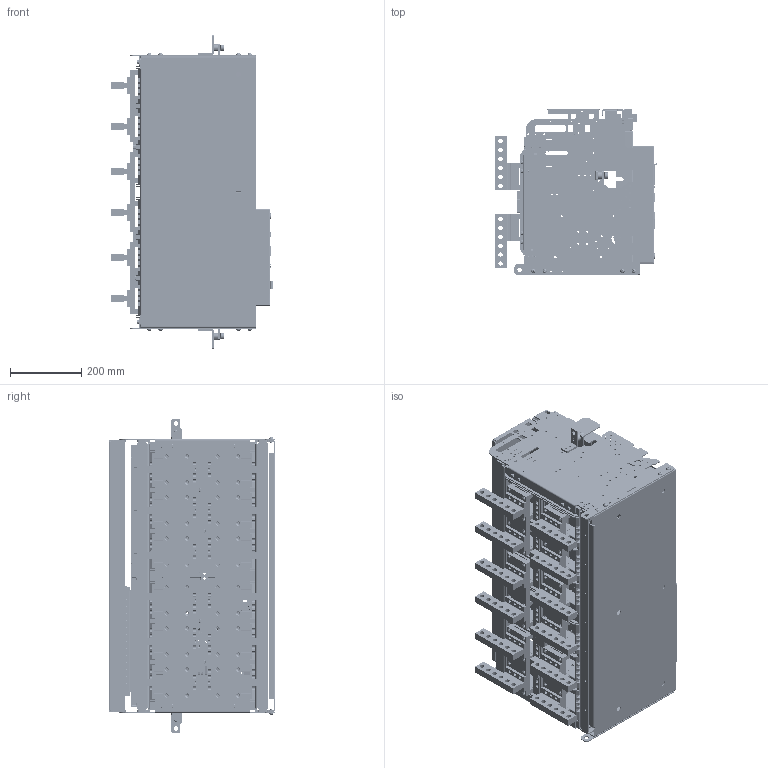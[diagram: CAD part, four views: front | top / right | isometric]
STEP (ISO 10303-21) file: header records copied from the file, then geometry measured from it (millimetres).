
FILE_DESCRIPTION((''),'2;1');
FILE_NAME('D633V_ASM','2017-02-01T',('HHI'),(''),'PRO/ENGINEER BY PARAMETRIC TECHNOLOGY CORPORATION, 2012453','PRO/ENGINEER BY PARAMETRIC TECHNOLOGY CORPORATION, 2012453','');
FILE_SCHEMA(('CONFIG_CONTROL_DESIGN'));
Products named in the file (52): 3AT-03371; 1AT-00887S02_ASM; 3AT-04942; ACB_P_PH_SCREW_M6_L12_SW; 3AT-03372; 1AT-00888S02_ASM; 3AT-04944; CONTROL_JACK_FOR_CRADLE; 9239000363_ASM; 1AT-00880S07_ASM; 3AT-05053; 4AT-06870; 3AT-05054_ASM; 1AT-00751_AF0; HEX_NUT_M6; 1AT-01050_ASM; 3AT-05055; 3AT-05056_ASM; ACB_HEX_BOLT_M6_18_SW; 3AT-05062; 3AT-05057; 3AT-05059_ASM; 3AT-05058; 3AT-05060_ASM; 3AT-05063S02; SC_CONTROL_JACK; SC_MAIN_FRONT_COVER40_2011_1215; SC_DR_DEVICE_COVER2; SC_DR_LOCK_PUSH_BUTTON; SC_MANUAL_POSITION_LOCK; SC-DR-INDICATOR_SAMPLE; DR_COVER_SAMPLE_ASM; MAIN_SC-OCR-COVER-U-DD-RE; MAIN_SC-OCR-PROTECTION-COVER-RE; MAIN_SC-OCR-LOWER-COVER-RE; OCR_COVER_SAMPLE_ASM; SC-CLOSE-BUTTON; SC-OPEN-BUTTON; N_CHARGE_HANDLE; COVER403_ASSY_ASM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
Assembly tree (146 placements, depth 5):
  D633V_ASM
    1AT-00887S02_ASM
      3AT-03371
    3AT-04942
    ACB_P_PH_SCREW_M6_L12_SW  x8
    1AT-00888S02_ASM
      3AT-03372
    1AT-00880S07_ASM
      3AT-04944
      9239000363_ASM
        CONTROL_JACK_FOR_CRADLE
    3AT-05054_ASM
      3AT-05053
      4AT-06870  x8
    1AT-01050_ASM  x2
      1AT-00751_AF0
      HEX_NUT_M6
    3AT-05056_ASM
      3AT-05055
      4AT-06870  x6
    ACB_HEX_BOLT_M6_18_SW  x8
    3AT-05062  x24
    3AT-05059_ASM  x4
      3AT-05057
    3AT-05060_ASM  x2
      3AT-05058
    3AT-05063S02  x12
    COVER_633_ASM
      COVER403_ASSY_ASM
        SC_CONTROL_JACK
        SC_MAIN_FRONT_COVER40_2011_1215
        DR_COVER_SAMPLE_ASM
          SC_DR_DEVICE_COVER2
          SC_DR_LOCK_PUSH_BUTTON
          SC_MANUAL_POSITION_LOCK
          SC-DR-INDICATOR_SAMPLE
        OCR_COVER_SAMPLE_ASM
          MAIN_SC-OCR-COVER-U-DD-RE
          MAIN_SC-OCR-PROTECTION-COVER-RE
          MAIN_SC-OCR-LOWER-COVER-RE
        SC-CLOSE-BUTTON
        SC-OPEN-BUTTON
        N_CHARGE_HANDLE
      3AT-04830
    U_ARC_SHIELD_633
    FIX_BODY_ASM_L_ASM
      SC-FIX-BLOCK-L
      FIX_BODY_EXTRA
      FIX_BLOCK_CRADLE
      BOLT
    FIX_BODY_ASM_R_ASM
      SC-FIX-BLOCK-R
      SC-FIX-BLOCK-SUP-R
      FIX_BLOCK_CRADLE
      BOLT
Bounding box: 453.03 x 466.35 x 878.2 mm (x, y, z)
Volume: 11918385.6 mm3; surface area: 5941920.1 mm2
Topology: 159 solids, 310 shells, 19755 faces, 56298 edges, 36581 vertices
Faces by surface type: plane 14355, cylinder 4157, cone 573, torus 228, extrusion 181, sphere 139, bspline 122
Entity records: 500989 total; most frequent: CARTESIAN_POINT 97488, ORIENTED_EDGE 86692, DIRECTION 78728, EDGE_CURVE 43548, VECTOR 37078, LINE 36897, VERTEX_POINT 28491, AXIS2_PLACEMENT_3D 20825
